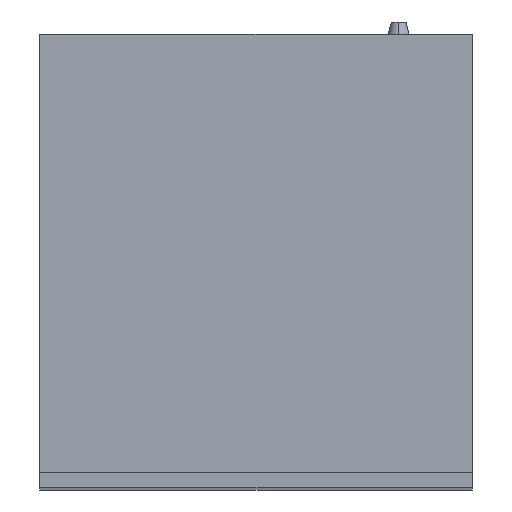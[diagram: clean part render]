
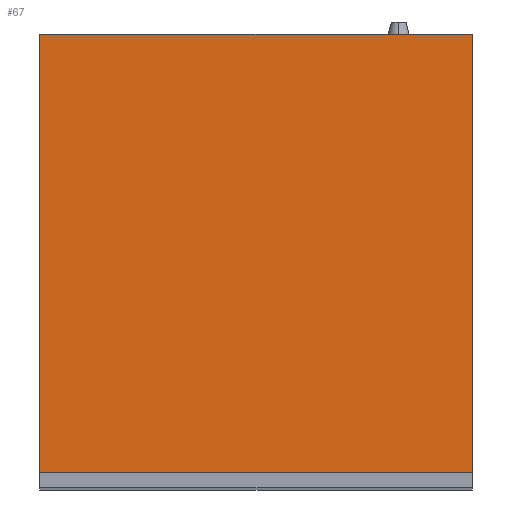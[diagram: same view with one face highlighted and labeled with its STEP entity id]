
A CAD part, top view. The second image highlights one B-rep face of the part: STEP entity #67.
In plain terms, the highlighted planar face has unit normal (0, 0, 1).
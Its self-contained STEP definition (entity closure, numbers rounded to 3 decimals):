
#67=ADVANCED_FACE('',(#91),#359,.T.);
#91=FACE_OUTER_BOUND('',#115,.T.);
#115=EDGE_LOOP('',(#151,#152,#153,#154));
#151=ORIENTED_EDGE('',*,*,#231,.F.);
#152=ORIENTED_EDGE('',*,*,#235,.F.);
#153=ORIENTED_EDGE('',*,*,#238,.F.);
#154=ORIENTED_EDGE('',*,*,#241,.F.);
#231=EDGE_CURVE('',#323,#324,#279,.T.);
#235=EDGE_CURVE('',#327,#323,#283,.T.);
#238=EDGE_CURVE('',#329,#327,#286,.T.);
#241=EDGE_CURVE('',#324,#329,#289,.T.);
#279=B_SPLINE_CURVE_WITH_KNOTS('',1,(#461,#462),.UNSPECIFIED.,.F.,.F.,(2,
2),(-1.926,0.),.UNSPECIFIED.);
#283=B_SPLINE_CURVE_WITH_KNOTS('',1,(#469,#470),.UNSPECIFIED.,.F.,.F.,(2,
2),(-1.952,0.),.UNSPECIFIED.);
#286=B_SPLINE_CURVE_WITH_KNOTS('',1,(#475,#476),.UNSPECIFIED.,.F.,.F.,(2,
2),(-1.926,0.),.UNSPECIFIED.);
#289=B_SPLINE_CURVE_WITH_KNOTS('',1,(#481,#482),.UNSPECIFIED.,.F.,.F.,(2,
2),(-1.952,0.),.UNSPECIFIED.);
#323=VERTEX_POINT('',#453);
#324=VERTEX_POINT('',#454);
#327=VERTEX_POINT('',#457);
#329=VERTEX_POINT('',#459);
#359=PLANE('',#401);
#401=AXIS2_PLACEMENT_3D('',#451,#426,$);
#426=DIRECTION('',(0.,0.,1.));
#451=CARTESIAN_POINT('',(293.51,643.01,2050.));
#453=CARTESIAN_POINT('',(-293.5,643.,2050.));
#454=CARTESIAN_POINT('',(293.5,643.,2050.));
#457=CARTESIAN_POINT('',(-293.5,48.,2050.));
#459=CARTESIAN_POINT('',(293.5,48.,2050.));
#461=CARTESIAN_POINT('',(-293.5,643.,2050.));
#462=CARTESIAN_POINT('',(293.5,643.,2050.));
#469=CARTESIAN_POINT('',(-293.5,48.,2050.));
#470=CARTESIAN_POINT('',(-293.5,643.,2050.));
#475=CARTESIAN_POINT('',(293.5,48.,2050.));
#476=CARTESIAN_POINT('',(-293.5,48.,2050.));
#481=CARTESIAN_POINT('',(293.5,643.,2050.));
#482=CARTESIAN_POINT('',(293.5,48.,2050.));
